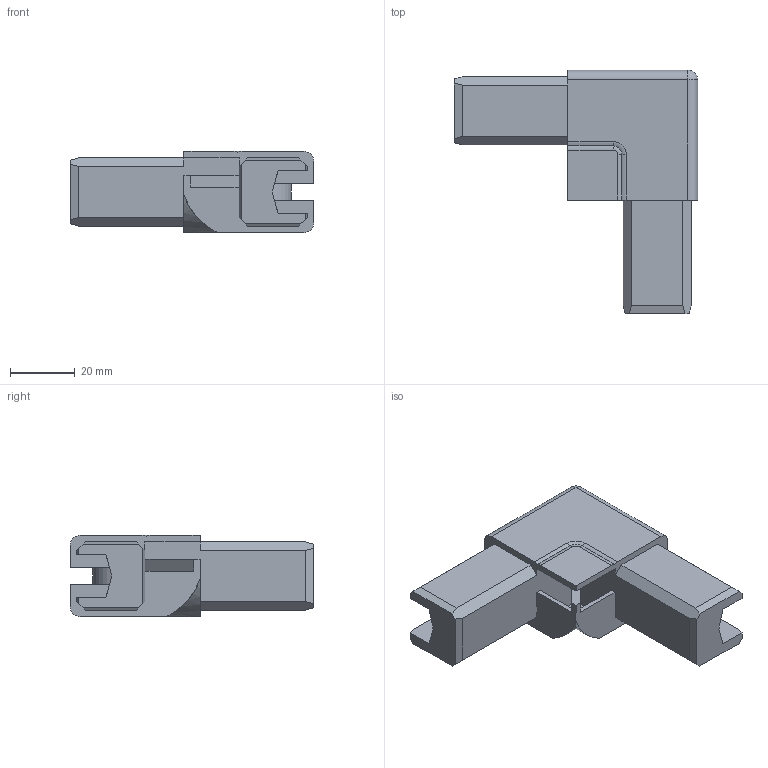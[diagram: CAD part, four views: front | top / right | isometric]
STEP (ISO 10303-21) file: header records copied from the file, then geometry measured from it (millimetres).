
FILE_DESCRIPTION (( 'STEP AP214' ), '1' );
FILE_NAME ('N15849.step', '2024-12-03T16:25:57', ( '' ), ( '' ), 'SwSTEP 2.0', 'SolidWorks 2023', '' );
FILE_SCHEMA (( 'AUTOMOTIVE_DESIGN' ));
Length unit declared in the file: millimetre
Products named in the file (1): N15849
Bounding box: 75 x 75 x 25 mm (x, y, z)
Volume: 49668.1 mm3; surface area: 16899.9 mm2
Topology: 1 solids, 1 shells, 114 faces, 307 edges, 193 vertices
Faces by surface type: plane 77, cylinder 27, torus 8, sphere 2
Entity records: 3523 total; most frequent: CARTESIAN_POINT 628, ORIENTED_EDGE 610, DIRECTION 589, EDGE_CURVE 305, LINE 241, VECTOR 241, VERTEX_POINT 193, AXIS2_PLACEMENT_3D 174
